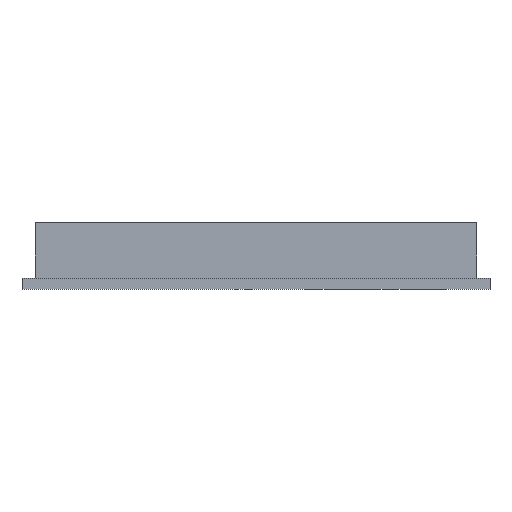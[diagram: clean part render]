
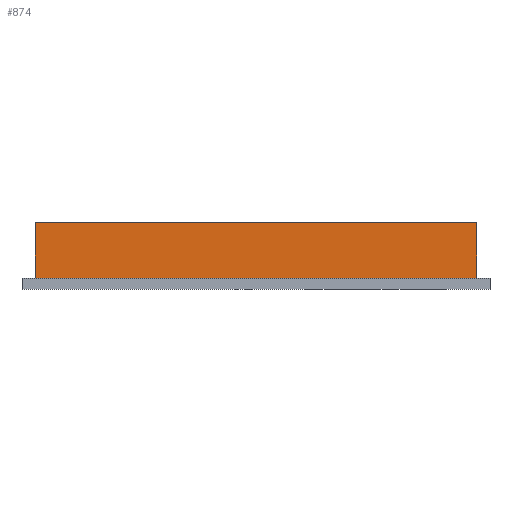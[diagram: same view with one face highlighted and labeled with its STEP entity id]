
A CAD part, front view. The second image highlights one B-rep face of the part: STEP entity #874.
In plain terms, the highlighted planar face has unit normal (0, -1, 0).
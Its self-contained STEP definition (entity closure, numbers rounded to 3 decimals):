
#126 = PLANE('',#127);
#127 = AXIS2_PLACEMENT_3D('',#128,#129,#130);
#128 = CARTESIAN_POINT('',(0.,0.,3.));
#129 = DIRECTION('',(0.,0.,1.));
#130 = DIRECTION('',(1.,0.,0.));
#266 = VERTEX_POINT('',#267);
#267 = CARTESIAN_POINT('',(3.55,3.55,3.));
#283 = PLANE('',#284);
#284 = AXIS2_PLACEMENT_3D('',#285,#286,#287);
#285 = CARTESIAN_POINT('',(3.55,3.55,3.));
#286 = DIRECTION('',(1.,0.,0.));
#287 = DIRECTION('',(0.,0.,1.));
#324 = VERTEX_POINT('',#325);
#325 = CARTESIAN_POINT('',(122.45,3.55,3.));
#339 = PLANE('',#340);
#340 = AXIS2_PLACEMENT_3D('',#341,#342,#343);
#341 = CARTESIAN_POINT('',(122.45,3.55,3.));
#342 = DIRECTION('',(1.,0.,0.));
#343 = DIRECTION('',(0.,0.,1.));
#351 = EDGE_CURVE('',#324,#266,#352,.T.);
#352 = SURFACE_CURVE('',#353,(#357,#364),.PCURVE_S1.);
#353 = LINE('',#354,#355);
#354 = CARTESIAN_POINT('',(122.45,3.55,3.));
#355 = VECTOR('',#356,1.);
#356 = DIRECTION('',(-1.,0.,0.));
#357 = PCURVE('',#126,#358);
#358 = DEFINITIONAL_REPRESENTATION('',(#359),#363);
#359 = LINE('',#360,#361);
#360 = CARTESIAN_POINT('',(122.45,3.55));
#361 = VECTOR('',#362,1.);
#362 = DIRECTION('',(-1.,0.));
#363 = ( GEOMETRIC_REPRESENTATION_CONTEXT(2) 
PARAMETRIC_REPRESENTATION_CONTEXT() REPRESENTATION_CONTEXT('2D SPACE',''
  ) );
#364 = PCURVE('',#365,#370);
#365 = PLANE('',#366);
#366 = AXIS2_PLACEMENT_3D('',#367,#368,#369);
#367 = CARTESIAN_POINT('',(3.55,3.55,3.));
#368 = DIRECTION('',(0.,1.,0.));
#369 = DIRECTION('',(0.,0.,1.));
#370 = DEFINITIONAL_REPRESENTATION('',(#371),#375);
#371 = LINE('',#372,#373);
#372 = CARTESIAN_POINT('',(0.,118.9));
#373 = VECTOR('',#374,1.);
#374 = DIRECTION('',(0.,-1.));
#375 = ( GEOMETRIC_REPRESENTATION_CONTEXT(2) 
PARAMETRIC_REPRESENTATION_CONTEXT() REPRESENTATION_CONTEXT('2D SPACE',''
  ) );
#638 = EDGE_CURVE('',#266,#639,#641,.T.);
#639 = VERTEX_POINT('',#640);
#640 = CARTESIAN_POINT('',(3.55,3.55,18.));
#641 = SURFACE_CURVE('',#642,(#646,#653),.PCURVE_S1.);
#642 = LINE('',#643,#644);
#643 = CARTESIAN_POINT('',(3.55,3.55,3.));
#644 = VECTOR('',#645,1.);
#645 = DIRECTION('',(0.,0.,1.));
#646 = PCURVE('',#283,#647);
#647 = DEFINITIONAL_REPRESENTATION('',(#648),#652);
#648 = LINE('',#649,#650);
#649 = CARTESIAN_POINT('',(0.,0.));
#650 = VECTOR('',#651,1.);
#651 = DIRECTION('',(1.,0.));
#652 = ( GEOMETRIC_REPRESENTATION_CONTEXT(2) 
PARAMETRIC_REPRESENTATION_CONTEXT() REPRESENTATION_CONTEXT('2D SPACE',''
  ) );
#653 = PCURVE('',#365,#654);
#654 = DEFINITIONAL_REPRESENTATION('',(#655),#659);
#655 = LINE('',#656,#657);
#656 = CARTESIAN_POINT('',(0.,0.));
#657 = VECTOR('',#658,1.);
#658 = DIRECTION('',(1.,0.));
#659 = ( GEOMETRIC_REPRESENTATION_CONTEXT(2) 
PARAMETRIC_REPRESENTATION_CONTEXT() REPRESENTATION_CONTEXT('2D SPACE',''
  ) );
#699 = PLANE('',#700);
#700 = AXIS2_PLACEMENT_3D('',#701,#702,#703);
#701 = CARTESIAN_POINT('',(3.55,3.55,18.));
#702 = DIRECTION('',(0.,0.,1.));
#703 = DIRECTION('',(1.,0.,0.));
#798 = EDGE_CURVE('',#324,#799,#801,.T.);
#799 = VERTEX_POINT('',#800);
#800 = CARTESIAN_POINT('',(122.45,3.55,18.));
#801 = SURFACE_CURVE('',#802,(#806,#813),.PCURVE_S1.);
#802 = LINE('',#803,#804);
#803 = CARTESIAN_POINT('',(122.45,3.55,3.));
#804 = VECTOR('',#805,1.);
#805 = DIRECTION('',(0.,0.,1.));
#806 = PCURVE('',#339,#807);
#807 = DEFINITIONAL_REPRESENTATION('',(#808),#812);
#808 = LINE('',#809,#810);
#809 = CARTESIAN_POINT('',(0.,0.));
#810 = VECTOR('',#811,1.);
#811 = DIRECTION('',(1.,0.));
#812 = ( GEOMETRIC_REPRESENTATION_CONTEXT(2) 
PARAMETRIC_REPRESENTATION_CONTEXT() REPRESENTATION_CONTEXT('2D SPACE',''
  ) );
#813 = PCURVE('',#365,#814);
#814 = DEFINITIONAL_REPRESENTATION('',(#815),#819);
#815 = LINE('',#816,#817);
#816 = CARTESIAN_POINT('',(0.,118.9));
#817 = VECTOR('',#818,1.);
#818 = DIRECTION('',(1.,0.));
#819 = ( GEOMETRIC_REPRESENTATION_CONTEXT(2) 
PARAMETRIC_REPRESENTATION_CONTEXT() REPRESENTATION_CONTEXT('2D SPACE',''
  ) );
#874 = ADVANCED_FACE('',(#875),#365,.F.);
#875 = FACE_BOUND('',#876,.F.);
#876 = EDGE_LOOP('',(#877,#878,#899,#900));
#877 = ORIENTED_EDGE('',*,*,#638,.T.);
#878 = ORIENTED_EDGE('',*,*,#879,.F.);
#879 = EDGE_CURVE('',#799,#639,#880,.T.);
#880 = SURFACE_CURVE('',#881,(#885,#892),.PCURVE_S1.);
#881 = LINE('',#882,#883);
#882 = CARTESIAN_POINT('',(122.45,3.55,18.));
#883 = VECTOR('',#884,1.);
#884 = DIRECTION('',(-1.,0.,0.));
#885 = PCURVE('',#365,#886);
#886 = DEFINITIONAL_REPRESENTATION('',(#887),#891);
#887 = LINE('',#888,#889);
#888 = CARTESIAN_POINT('',(15.,118.9));
#889 = VECTOR('',#890,1.);
#890 = DIRECTION('',(0.,-1.));
#891 = ( GEOMETRIC_REPRESENTATION_CONTEXT(2) 
PARAMETRIC_REPRESENTATION_CONTEXT() REPRESENTATION_CONTEXT('2D SPACE',''
  ) );
#892 = PCURVE('',#699,#893);
#893 = DEFINITIONAL_REPRESENTATION('',(#894),#898);
#894 = LINE('',#895,#896);
#895 = CARTESIAN_POINT('',(118.9,0.));
#896 = VECTOR('',#897,1.);
#897 = DIRECTION('',(-1.,0.));
#898 = ( GEOMETRIC_REPRESENTATION_CONTEXT(2) 
PARAMETRIC_REPRESENTATION_CONTEXT() REPRESENTATION_CONTEXT('2D SPACE',''
  ) );
#899 = ORIENTED_EDGE('',*,*,#798,.F.);
#900 = ORIENTED_EDGE('',*,*,#351,.T.);
